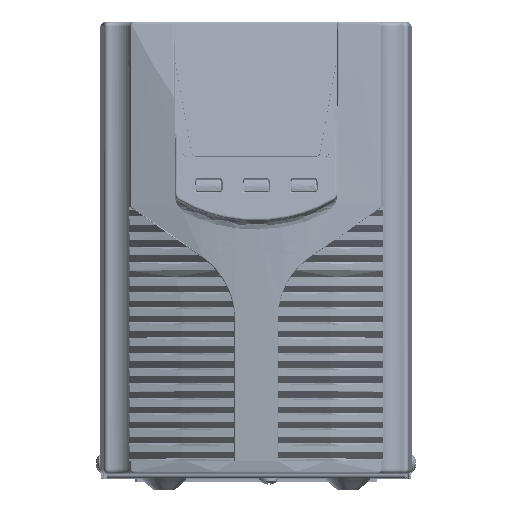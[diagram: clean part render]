
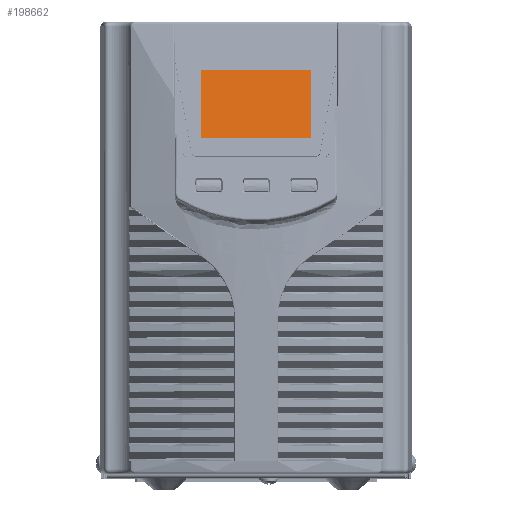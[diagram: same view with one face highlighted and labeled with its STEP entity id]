
A CAD part, top view. The second image highlights one B-rep face of the part: STEP entity #198662.
In plain terms, the highlighted planar face has unit normal (0, 0.172, 0.985).
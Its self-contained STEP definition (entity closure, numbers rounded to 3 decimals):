
#8497 = AXIS2_PLACEMENT_3D ( 'NONE', #198085, #237829, #241603 ) ;
#11199 = CARTESIAN_POINT ( 'NONE',  ( -209.885, 75.292, -187.531 ) ) ;
#21976 = LINE ( 'NONE', #82231, #184737 ) ;
#22397 = PLANE ( 'NONE',  #8497 ) ;
#30467 = EDGE_CURVE ( 'NONE', #54288, #196213, #33827, .T. ) ;
#32305 = CARTESIAN_POINT ( 'NONE',  ( -209.885, 43.768, -182.033 ) ) ;
#33827 = LINE ( 'NONE', #53078, #252891 ) ;
#35629 = EDGE_CURVE ( 'NONE', #196213, #134747, #52202, .T. ) ;
#51747 = CARTESIAN_POINT ( 'NONE',  ( -209.885, 75.292, -187.531 ) ) ;
#52202 = LINE ( 'NONE', #11199, #244121 ) ;
#53078 = CARTESIAN_POINT ( 'NONE',  ( -209.885, 43.768, -182.033 ) ) ;
#54288 = VERTEX_POINT ( 'NONE', #32305 ) ;
#56310 = VERTEX_POINT ( 'NONE', #133544 ) ;
#58573 = EDGE_CURVE ( 'NONE', #56310, #54288, #213115, .T. ) ;
#70194 = DIRECTION ( 'NONE',  ( 1., 0., 0. ) ) ;
#82231 = CARTESIAN_POINT ( 'NONE',  ( -158.885, 75.292, -187.531 ) ) ;
#92431 = ORIENTED_EDGE ( 'NONE', *, *, #58573, .F. ) ;
#98200 = EDGE_LOOP ( 'NONE', ( #241951, #92431, #228182, #154817 ) ) ;
#98956 = CARTESIAN_POINT ( 'NONE',  ( -158.885, 75.292, -187.531 ) ) ;
#102996 = VECTOR ( 'NONE', #115717, 1000. ) ;
#103159 = FACE_OUTER_BOUND ( 'NONE', #98200, .T. ) ;
#115717 = DIRECTION ( 'NONE',  ( -1., 0., 0. ) ) ;
#129851 = CARTESIAN_POINT ( 'NONE',  ( -158.885, 43.768, -182.033 ) ) ;
#133544 = CARTESIAN_POINT ( 'NONE',  ( -158.885, 43.768, -182.033 ) ) ;
#134747 = VERTEX_POINT ( 'NONE', #98956 ) ;
#145502 = DIRECTION ( 'NONE',  ( 0., 0.985, -0.172 ) ) ;
#154817 = ORIENTED_EDGE ( 'NONE', *, *, #35629, .F. ) ;
#179482 = EDGE_CURVE ( 'NONE', #134747, #56310, #21976, .T. ) ;
#184737 = VECTOR ( 'NONE', #237414, 1000. ) ;
#196213 = VERTEX_POINT ( 'NONE', #51747 ) ;
#198085 = CARTESIAN_POINT ( 'NONE',  ( -184.385, 62.239, -185.255 ) ) ;
#198662 = ADVANCED_FACE ( 'NONE', ( #103159 ), #22397, .T. ) ;
#213115 = LINE ( 'NONE', #129851, #102996 ) ;
#228182 = ORIENTED_EDGE ( 'NONE', *, *, #179482, .F. ) ;
#237414 = DIRECTION ( 'NONE',  ( 0., -0.985, 0.172 ) ) ;
#237829 = DIRECTION ( 'NONE',  ( 0., 0.172, 0.985 ) ) ;
#241603 = DIRECTION ( 'NONE',  ( 0., -0.985, 0.172 ) ) ;
#241951 = ORIENTED_EDGE ( 'NONE', *, *, #30467, .F. ) ;
#244121 = VECTOR ( 'NONE', #70194, 1000. ) ;
#252891 = VECTOR ( 'NONE', #145502, 1000. ) ;
